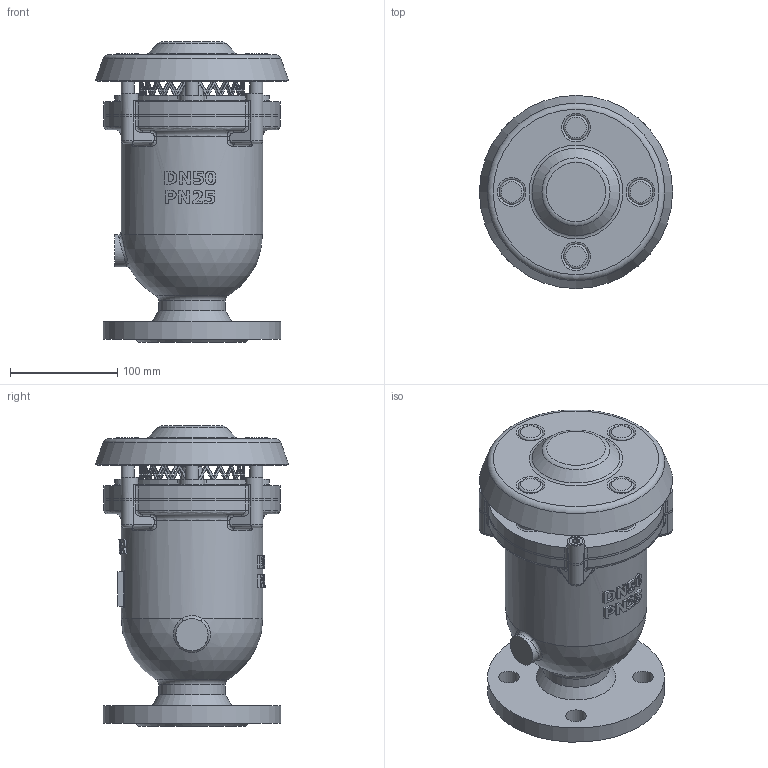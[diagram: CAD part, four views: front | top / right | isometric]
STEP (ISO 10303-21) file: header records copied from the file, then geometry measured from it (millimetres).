
FILE_DESCRIPTION(('STEP AP242'), '1');
FILE_NAME('Âîçäóøíûé êëàïàí DUOJET KX', '', ('UNSPECIFIED'), ('UNSPECIFIED'), 'C3D Converter', 'C3D Toolkit', '');
FILE_SCHEMA(('AP242_MANAGED_MODEL_BASED_3D_ENGINEERING_MIM_LF { 1 0 10303 442 1 1 4 }'));
Length unit declared in the file: millimetre
Assembly tree (29 placements, depth 2):
  (unnamed)
    (unnamed)
    (unnamed)
    (unnamed)
    (unnamed)
    (unnamed)
    (unnamed)
    (unnamed)  x4
    (unnamed)  x4
    (unnamed)
    (unnamed)
    (unnamed)
    (unnamed)
    (unnamed)  x3
    (unnamed)  x4
    (unnamed)  x4
Bounding box: 180 x 180 x 280 mm (x, y, z)
Volume: 1566649 mm3; surface area: 594943.2 mm2
Topology: 30 solids, 31 shells, 1186 faces, 3056 edges, 1991 vertices
Faces by surface type: plane 400, bspline 298, cylinder 248, extrusion 130, torus 56, cone 41, sphere 13
Full cylindrical faces by diameter (mm): 5.4 x4, 5.5 x4, 6 x15, 8 x20, 9 x2, 12 x4, 12.5 x2, 12.8 x4, 13 x4, 14 x4, 16 x4, 16.447 x1, 18.5 x1, 19 x4, 30 x1, 50 x2, 62 x1, 69 x2, 75 x1, 92 x1, 96 x4, 98 x1, 108 x2, 120 x1, 130 x2, 132 x3, 165 x1
Entity records: 91935 total; most frequent: CARTESIAN_POINT 65391, ORIENTED_EDGE 5318, DIRECTION 3477, EDGE_CURVE 2659, VERTEX_POINT 1805, B_SPLINE_CURVE_WITH_KNOTS 1435, EDGE_LOOP 1406, AXIS2_PLACEMENT_3D 1344
